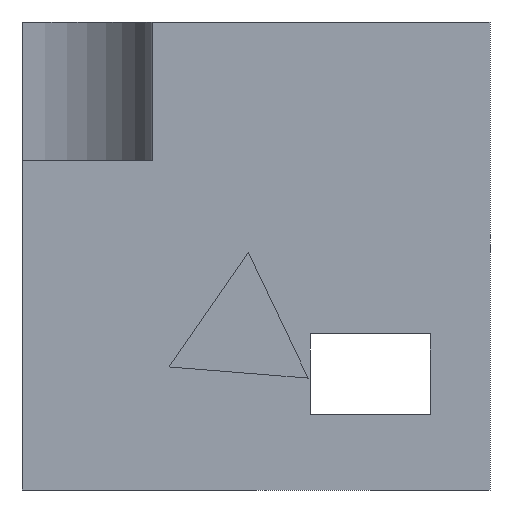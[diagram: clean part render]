
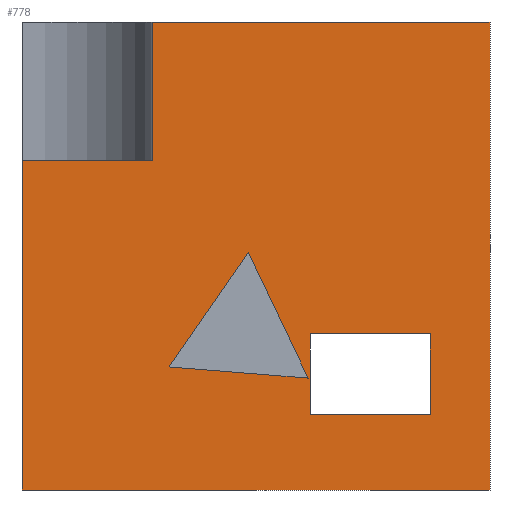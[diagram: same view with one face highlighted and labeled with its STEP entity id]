
A CAD part, left-side view. The second image highlights one B-rep face of the part: STEP entity #778.
In plain terms, the highlighted planar face has unit normal (-1, 0, 0).
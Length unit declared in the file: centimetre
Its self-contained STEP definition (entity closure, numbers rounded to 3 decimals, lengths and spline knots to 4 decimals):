
#6 = CARTESIAN_POINT ( 'NONE',  ( 0., 516.3658, 508.1262 ) ) ;
#8 = ORIENTED_EDGE ( 'NONE', *, *, #39, .T. ) ;
#16 = EDGE_CURVE ( 'NONE', #889, #351, #505, .T. ) ;
#20 = LINE ( 'NONE', #422, #491 ) ;
#23 = CARTESIAN_POINT ( 'NONE',  ( 0., 388.5712, 239.0678 ) ) ;
#29 = VECTOR ( 'NONE', #327, 100. ) ;
#39 = EDGE_CURVE ( 'NONE', #597, #493, #795, .T. ) ;
#42 = VERTEX_POINT ( 'NONE', #853 ) ;
#47 = CARTESIAN_POINT ( 'NONE',  ( 0., 127.8202, 161.3339 ) ) ;
#48 = ORIENTED_EDGE ( 'NONE', *, *, #871, .T. ) ;
#49 = CARTESIAN_POINT ( 'NONE',  ( 0., 0., 0. ) ) ;
#56 = DIRECTION ( 'NONE',  ( 0., 0., 1. ) ) ;
#59 = VERTEX_POINT ( 'NONE', #213 ) ;
#66 = VERTEX_POINT ( 'NONE', #144 ) ;
#69 = DIRECTION ( 'NONE',  ( 0., 1., 0. ) ) ;
#72 = ORIENTED_EDGE ( 'NONE', *, *, #593, .F. ) ;
#94 = ORIENTED_EDGE ( 'NONE', *, *, #766, .F. ) ;
#99 = CARTESIAN_POINT ( 'NONE',  ( 0., 384.5436, 161.3339 ) ) ;
#107 = FACE_OUTER_BOUND ( 'NONE', #484, .T. ) ;
#115 = DIRECTION ( 'NONE',  ( 1., 0., 0. ) ) ;
#117 = CARTESIAN_POINT ( 'NONE',  ( 0., 1000., 0. ) ) ;
#128 = ORIENTED_EDGE ( 'NONE', *, *, #137, .F. ) ;
#133 = LINE ( 'NONE', #323, #776 ) ;
#137 = EDGE_CURVE ( 'NONE', #66, #779, #848, .T. ) ;
#144 = CARTESIAN_POINT ( 'NONE',  ( 0., 720.9093, 1000. ) ) ;
#146 = LINE ( 'NONE', #411, #156 ) ;
#156 = VECTOR ( 'NONE', #705, 100. ) ;
#167 = VERTEX_POINT ( 'NONE', #425 ) ;
#175 = EDGE_CURVE ( 'NONE', #779, #670, #133, .T. ) ;
#199 = FACE_BOUND ( 'NONE', #667, .T. ) ;
#202 = LINE ( 'NONE', #117, #258 ) ;
#213 = CARTESIAN_POINT ( 'NONE',  ( 0., 720.9093, 704.678 ) ) ;
#224 = EDGE_CURVE ( 'NONE', #330, #167, #816, .T. ) ;
#236 = LINE ( 'NONE', #99, #475 ) ;
#242 = CARTESIAN_POINT ( 'NONE',  ( 0., 1000., 704.678 ) ) ;
#254 = CARTESIAN_POINT ( 'NONE',  ( 0., 1000., 1000. ) ) ;
#258 = VECTOR ( 'NONE', #607, 100. ) ;
#273 = EDGE_CURVE ( 'NONE', #351, #549, #319, .T. ) ;
#282 = ORIENTED_EDGE ( 'NONE', *, *, #734, .F. ) ;
#283 = DIRECTION ( 'NONE',  ( 0., -1., 0. ) ) ;
#292 = CARTESIAN_POINT ( 'NONE',  ( 0., 1000., 1000. ) ) ;
#293 = CARTESIAN_POINT ( 'NONE',  ( 0., 1000., 0. ) ) ;
#298 = DIRECTION ( 'NONE',  ( 0., 0., -1. ) ) ;
#314 = CARTESIAN_POINT ( 'NONE',  ( 0., 127.8202, 161.3339 ) ) ;
#319 = LINE ( 'NONE', #596, #29 ) ;
#322 = CARTESIAN_POINT ( 'NONE',  ( 0., 384.5436, 161.3339 ) ) ;
#323 = CARTESIAN_POINT ( 'NONE',  ( 0., 0., 1000. ) ) ;
#325 = ORIENTED_EDGE ( 'NONE', *, *, #224, .F. ) ;
#327 = DIRECTION ( 'NONE',  ( 0., 0.568, -0.823 ) ) ;
#330 = VERTEX_POINT ( 'NONE', #562 ) ;
#331 = ORIENTED_EDGE ( 'NONE', *, *, #16, .F. ) ;
#346 = ORIENTED_EDGE ( 'NONE', *, *, #175, .F. ) ;
#351 = VERTEX_POINT ( 'NONE', #6 ) ;
#359 = DIRECTION ( 'NONE',  ( 0., 0.429, 0.903 ) ) ;
#381 = PLANE ( 'NONE',  #714 ) ;
#384 = EDGE_CURVE ( 'NONE', #597, #59, #146, .T. ) ;
#391 = DIRECTION ( 'NONE',  ( 0., 0., -1. ) ) ;
#396 = CARTESIAN_POINT ( 'NONE',  ( 0., 388.5712, 239.0678 ) ) ;
#406 = EDGE_CURVE ( 'NONE', #167, #42, #20, .T. ) ;
#411 = CARTESIAN_POINT ( 'NONE',  ( 0., 1000., 704.678 ) ) ;
#417 = VECTOR ( 'NONE', #359, 100. ) ;
#422 = CARTESIAN_POINT ( 'NONE',  ( 0., 127.8202, 333.5964 ) ) ;
#425 = CARTESIAN_POINT ( 'NONE',  ( 0., 127.8202, 333.5964 ) ) ;
#431 = ORIENTED_EDGE ( 'NONE', *, *, #406, .F. ) ;
#447 = ORIENTED_EDGE ( 'NONE', *, *, #384, .F. ) ;
#450 = ORIENTED_EDGE ( 'NONE', *, *, #273, .F. ) ;
#475 = VECTOR ( 'NONE', #298, 100. ) ;
#481 = DIRECTION ( 'NONE',  ( 0., 0., -1. ) ) ;
#484 = EDGE_LOOP ( 'NONE', ( #128, #602, #447, #8, #48, #346 ) ) ;
#489 = CARTESIAN_POINT ( 'NONE',  ( 0., 1000., 1000. ) ) ;
#491 = VECTOR ( 'NONE', #69, 100. ) ;
#493 = VERTEX_POINT ( 'NONE', #293 ) ;
#505 = LINE ( 'NONE', #23, #417 ) ;
#507 = VECTOR ( 'NONE', #520, 100. ) ;
#520 = DIRECTION ( 'NONE',  ( 0., -1., 0. ) ) ;
#523 = LINE ( 'NONE', #676, #834 ) ;
#528 = VECTOR ( 'NONE', #564, 100. ) ;
#546 = VECTOR ( 'NONE', #283, 100. ) ;
#549 = VERTEX_POINT ( 'NONE', #731 ) ;
#562 = CARTESIAN_POINT ( 'NONE',  ( 0., 127.8202, 161.3339 ) ) ;
#564 = DIRECTION ( 'NONE',  ( 0., 0., -1. ) ) ;
#593 = EDGE_CURVE ( 'NONE', #42, #739, #236, .T. ) ;
#596 = CARTESIAN_POINT ( 'NONE',  ( 0., 516.3658, 508.1262 ) ) ;
#597 = VERTEX_POINT ( 'NONE', #242 ) ;
#602 = ORIENTED_EDGE ( 'NONE', *, *, #852, .T. ) ;
#607 = DIRECTION ( 'NONE',  ( 0., -1., 0. ) ) ;
#612 = LINE ( 'NONE', #314, #507 ) ;
#618 = DIRECTION ( 'NONE',  ( 0., 0., -1. ) ) ;
#628 = LINE ( 'NONE', #898, #851 ) ;
#640 = VECTOR ( 'NONE', #56, 100. ) ;
#663 = DIRECTION ( 'NONE',  ( 0., -0.997, -0.08 ) ) ;
#667 = EDGE_LOOP ( 'NONE', ( #282, #450, #331 ) ) ;
#670 = VERTEX_POINT ( 'NONE', #49 ) ;
#671 = CARTESIAN_POINT ( 'NONE',  ( 0., 0., 1000. ) ) ;
#676 = CARTESIAN_POINT ( 'NONE',  ( 0., 685.4799, 262.9237 ) ) ;
#705 = DIRECTION ( 'NONE',  ( 0., -1., 0. ) ) ;
#714 = AXIS2_PLACEMENT_3D ( 'NONE', #254, #115, #391 ) ;
#731 = CARTESIAN_POINT ( 'NONE',  ( 0., 685.4799, 262.9237 ) ) ;
#734 = EDGE_CURVE ( 'NONE', #549, #889, #523, .T. ) ;
#736 = FACE_BOUND ( 'NONE', #824, .T. ) ;
#739 = VERTEX_POINT ( 'NONE', #322 ) ;
#766 = EDGE_CURVE ( 'NONE', #739, #330, #612, .T. ) ;
#776 = VECTOR ( 'NONE', #618, 100. ) ;
#778 = ADVANCED_FACE ( 'NONE', ( #736, #199, #107 ), #381, .F. ) ;
#779 = VERTEX_POINT ( 'NONE', #671 ) ;
#795 = LINE ( 'NONE', #292, #528 ) ;
#816 = LINE ( 'NONE', #47, #640 ) ;
#824 = EDGE_LOOP ( 'NONE', ( #325, #94, #72, #431 ) ) ;
#834 = VECTOR ( 'NONE', #663, 100. ) ;
#848 = LINE ( 'NONE', #489, #546 ) ;
#851 = VECTOR ( 'NONE', #481, 100. ) ;
#852 = EDGE_CURVE ( 'NONE', #66, #59, #628, .T. ) ;
#853 = CARTESIAN_POINT ( 'NONE',  ( 0., 384.5436, 333.5964 ) ) ;
#871 = EDGE_CURVE ( 'NONE', #493, #670, #202, .T. ) ;
#889 = VERTEX_POINT ( 'NONE', #396 ) ;
#898 = CARTESIAN_POINT ( 'NONE',  ( 0., 720.9093, 704.678 ) ) ;
